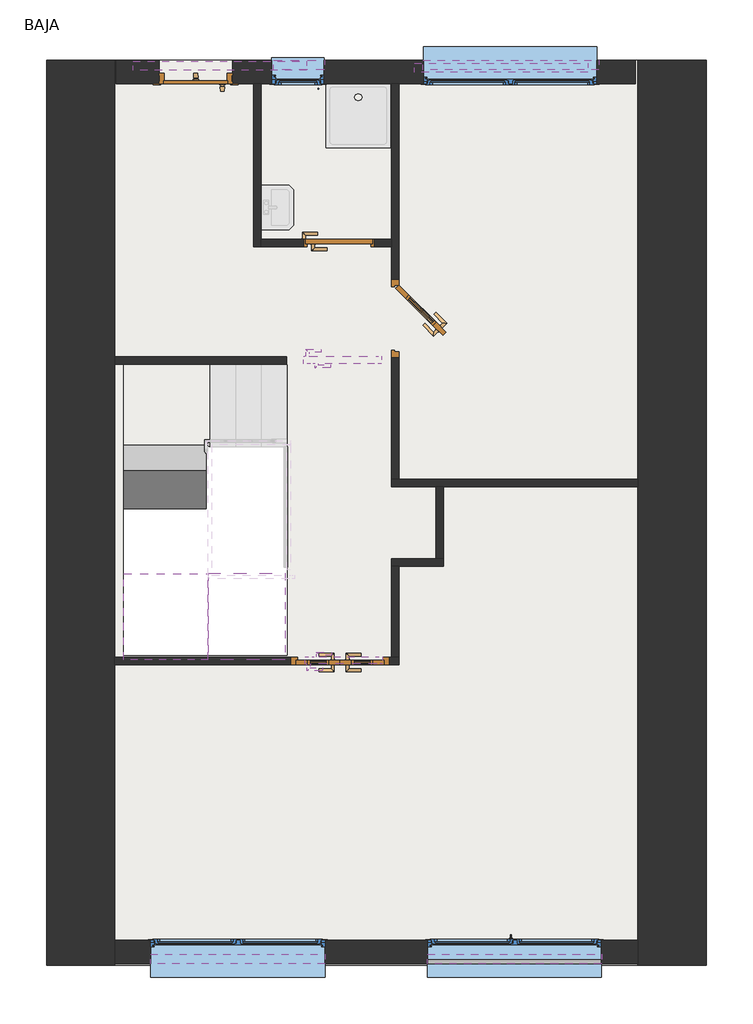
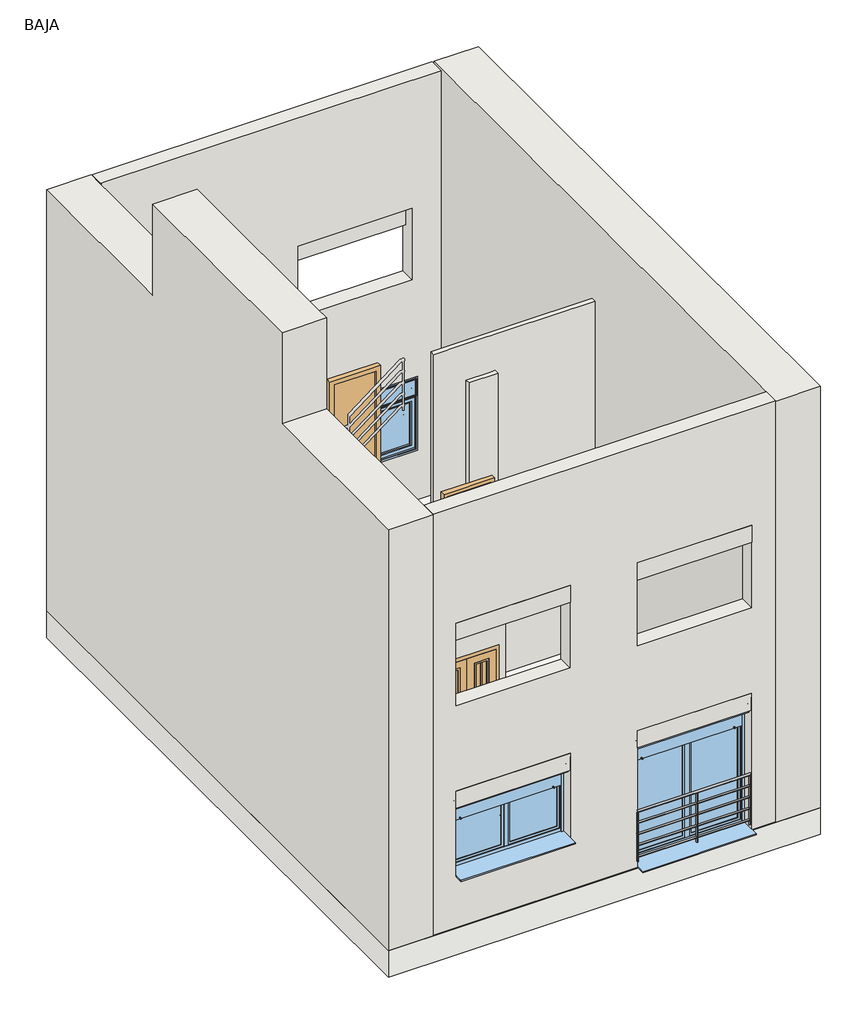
# One storey, part 1 of 3: 21 walls, 6 doors, 4 windows, 3 slabs, 2 stair flights, 1 railing.
"""IFC4 building model written with IfcOpenShell, lengths in millimetres."""

from ifc_helpers import new_model, si_unit, point, frame, frame_2d, origin, place, context, project, spatial, polyline, circle_curve, trimmed, segment, composite_curve, outline, extrude, faceted_brep, transform, mapped, element, save
from components import door_125_x_203_cm_500769dd, door_72_5_x_203_cm_2e9c9844, door_72_5_x_203_cm_b813763c, door_72_5_x_203_cm_f417b031, door_800_x_2100mm_72a88144, window_7e7f52a2, window_ec7ea8cb, window_ea0ccc3b, window_bd042ff0

model = new_model("IFC4")

# Units and contexts
model_context = context("Model", 3, world=origin())
ifc_project = project(units=[si_unit("LENGTHUNIT", "METRE", prefix="MILLI")], contexts=[model_context])

# Site, building, storey
site = spatial("IfcSite", under=ifc_project)
building = spatial("IfcBuilding", under=site)
storey = spatial("IfcBuildingStorey", under=building, Name="BAJA", Elevation=4000.0)

# Doors
placement = place(None, origin())
door_125_x_203_cm_shape = door_125_x_203_cm_500769dd(model_context)
element("IfcDoor", 1, ObjectType="Puerta abatible de 2 hojas con ventana con ventilacion : 125 x 203 cm", at=placement, inside=storey, context=model_context, shape_type="MappedRepresentation", body=[
    mapped(door_125_x_203_cm_shape, transform((-4503.6810782, -12799.9701634, 4000.0), x_axis=(1.0, 0.0, 0.0), y_axis=(0.0, 1.0, 0.0), z_axis=(0.0, 0.0, 1.0))),
])
door_72_5_x_203_cm_shape = door_72_5_x_203_cm_2e9c9844(model_context)
element("IfcDoor", 2, ObjectType="Puerta abatible ciega con ventilación : 72.5 x 203 cm", at=placement, inside=storey, context=model_context, shape_type="MappedRepresentation", body=[
    mapped(door_72_5_x_203_cm_shape, transform((-4464.4530766, -12790.9701634, 6950.0), x_axis=(-1.0, 0.0, 0.0), y_axis=(0.0, -1.0, 0.0), z_axis=(0.0, 0.0, 1.0))),
])
door_72_5_x_203_cm_2_shape = door_72_5_x_203_cm_b813763c(model_context)
element("IfcDoor", 3, ObjectType="Puerta abatible ciega con ventilación : 72.5 x 203 cm", at=placement, inside=storey, context=model_context, shape_type="MappedRepresentation", body=[
    mapped(door_72_5_x_203_cm_2_shape, transform((-4476.9530766, -9522.9701634, 6950.0), x_axis=(-1.0, 0.0, 0.0), y_axis=(0.0, -1.0, 0.0), z_axis=(0.0, 0.0, 1.0))),
])
element("IfcDoor", 4, ObjectType="Puerta abatible ciega con ventilación : 72.5 x 203 cm", at=placement, inside=storey, context=model_context, shape_type="MappedRepresentation", body=[
    mapped(door_72_5_x_203_cm_2_shape, transform((-4515.6811043, -8248.8535846, 4000.0), x_axis=(-1.0, 0.0, 0.0), y_axis=(0.0, -1.0, 0.0), z_axis=(0.0, 0.0, 1.0))),
])
door_72_5_x_203_cm_3_shape = door_72_5_x_203_cm_f417b031(model_context)
element("IfcDoor", 5, ObjectType="Puerta abatible con ventana y ventilación  : 72.5 x 203 cm", at=placement, inside=storey, context=model_context, shape_type="MappedRepresentation", body=[
    mapped(door_72_5_x_203_cm_3_shape, transform((-3903.6811043, -9070.8535846, 4000.0), x_axis=(0.0, -1.0, 0.0), y_axis=(1.0, 0.0, 0.0), z_axis=(0.0, 0.0, 1.0))),
])
door_800_x_2100mm_shape = door_800_x_2100mm_72a88144(model_context)
element("IfcDoor", 6, ObjectType="Puerta de entrada a la vivienda : 800 x 2100mm", at=placement, inside=storey, context=model_context, shape_type="MappedRepresentation", body=[
    mapped(door_800_x_2100mm_shape, transform((-6076.4955425, -6389.2945269, 4000.0), x_axis=(-1.0, 0.0, 0.0), y_axis=(0.0, -1.0, 0.0), z_axis=(0.0, 0.0, 1.0))),
])

# Railing
element("IfcRailing", 7, ObjectType="Tubería 900 mm", at=placement, inside=storey, context=model_context, shape_type="SweptSolid", body=[
    extrude(outline(composite_curve([segment(trimmed(circle_curve(frame_2d((-16073.1457931, 4970.0)), 20.0), [point((-16093.1457931, 4970.0))], [point((-16053.1457931, 4970.0))], False, "CARTESIAN"), True, "CONTINUOUS"), segment(trimmed(circle_curve(frame_2d((-16073.1457931, 4970.0)), 20.0), [point((-16053.1457931, 4970.0))], [point((-16093.1457931, 4970.0))], False, "CARTESIAN"), True, "CONTINUOUS")], self_intersect=False)), frame((-3550.9530766, 0.0, 0.0), z_axis=(1.0, 0.0, 0.0), x_axis=(0.0, 1.0, 0.0)), (0.0, 0.0, 1.0), 1890.0),
    extrude(outline(composite_curve([segment(trimmed(circle_curve(frame_2d((-16073.1457931, 4775.0)), 15.0), [point((-16058.1457931, 4775.0))], [point((-16088.1457931, 4775.0))], False, "CARTESIAN"), True, "CONTINUOUS"), segment(trimmed(circle_curve(frame_2d((-16073.1457931, 4775.0)), 15.0), [point((-16088.1457931, 4775.0))], [point((-16058.1457931, 4775.0))], False, "CARTESIAN"), True, "CONTINUOUS")], self_intersect=False)), frame((-3550.9530766, 0.0, 0.0), z_axis=(1.0, 0.0, 0.0), x_axis=(0.0, 1.0, 0.0)), (0.0, 0.0, 1.0), 1890.0),
    extrude(outline(composite_curve([segment(trimmed(circle_curve(frame_2d((-16073.1457931, 4575.0)), 15.0), [point((-16058.1457931, 4575.0))], [point((-16088.1457931, 4575.0))], False, "CARTESIAN"), True, "CONTINUOUS"), segment(trimmed(circle_curve(frame_2d((-16073.1457931, 4575.0)), 15.0), [point((-16088.1457931, 4575.0))], [point((-16058.1457931, 4575.0))], False, "CARTESIAN"), True, "CONTINUOUS")], self_intersect=False)), frame((-3550.9530766, 0.0, 0.0), z_axis=(1.0, 0.0, 0.0), x_axis=(0.0, 1.0, 0.0)), (0.0, 0.0, 1.0), 1890.0),
    extrude(outline(composite_curve([segment(trimmed(circle_curve(frame_2d((-16073.1457931, 4375.0)), 15.0), [point((-16058.1457931, 4375.0))], [point((-16088.1457931, 4375.0))], False, "CARTESIAN"), True, "CONTINUOUS"), segment(trimmed(circle_curve(frame_2d((-16073.1457931, 4375.0)), 15.0), [point((-16088.1457931, 4375.0))], [point((-16058.1457931, 4375.0))], False, "CARTESIAN"), True, "CONTINUOUS")], self_intersect=False)), frame((-3550.9530766, 0.0, 0.0), z_axis=(1.0, 0.0, 0.0), x_axis=(0.0, 1.0, 0.0)), (0.0, 0.0, 1.0), 1890.0),
    extrude(outline(composite_curve([segment(trimmed(circle_curve(frame_2d((-16073.1457931, 4175.0)), 15.0), [point((-16058.1457931, 4175.0))], [point((-16088.1457931, 4175.0))], False, "CARTESIAN"), True, "CONTINUOUS"), segment(trimmed(circle_curve(frame_2d((-16073.1457931, 4175.0)), 15.0), [point((-16088.1457931, 4175.0))], [point((-16058.1457931, 4175.0))], False, "CARTESIAN"), True, "CONTINUOUS")], self_intersect=False)), frame((-3550.9530766, 0.0, 0.0), z_axis=(1.0, 0.0, 0.0), x_axis=(0.0, 1.0, 0.0)), (0.0, 0.0, 1.0), 1890.0),
    extrude(outline(composite_curve([segment(trimmed(circle_curve(frame_2d((-2550.9530766, -16073.1457931)), 12.5), [point((-2550.9530766, -16060.6457931))], [point((-2550.9530766, -16085.6457931))], False, "CARTESIAN"), True, "CONTINUOUS"), segment(trimmed(circle_curve(frame_2d((-2550.9530766, -16073.1457931)), 12.5), [point((-2550.9530766, -16085.6457931))], [point((-2550.9530766, -16060.6457931))], False, "CARTESIAN"), True, "CONTINUOUS")], self_intersect=False)), frame((0.0, 0.0, 4090.0), z_axis=(0.0, 0.0, 1.0), x_axis=(1.0, 0.0, 0.0)), (0.0, 0.0, 1.0), 860.0),
    extrude(outline(composite_curve([segment(trimmed(circle_curve(frame_2d((-1673.4530766, -16073.1457931)), 12.5), [point((-1673.4530766, -16060.6457931))], [point((-1673.4530766, -16085.6457931))], False, "CARTESIAN"), True, "CONTINUOUS"), segment(trimmed(circle_curve(frame_2d((-1673.4530766, -16073.1457931)), 12.5), [point((-1673.4530766, -16085.6457931))], [point((-1673.4530766, -16060.6457931))], False, "CARTESIAN"), True, "CONTINUOUS")], self_intersect=False)), frame((0.0, 0.0, 4090.0), z_axis=(0.0, 0.0, 1.0), x_axis=(1.0, 0.0, 0.0)), (0.0, 0.0, 1.0), 860.0),
    extrude(outline(composite_curve([segment(trimmed(circle_curve(frame_2d((-3538.4530766, -16073.1457931)), 12.5), [point((-3538.4530766, -16060.6457931))], [point((-3538.4530766, -16085.6457931))], False, "CARTESIAN"), True, "CONTINUOUS"), segment(trimmed(circle_curve(frame_2d((-3538.4530766, -16073.1457931)), 12.5), [point((-3538.4530766, -16085.6457931))], [point((-3538.4530766, -16060.6457931))], False, "CARTESIAN"), True, "CONTINUOUS")], self_intersect=False)), frame((0.0, 0.0, 4090.0), z_axis=(0.0, 0.0, 1.0), x_axis=(1.0, 0.0, 0.0)), (0.0, 0.0, 1.0), 860.0),
])

# Slabs
element("IfcSlab", 8, ObjectType="Grosor 300 mm", at=placement, inside=storey, context=model_context, shape_type="Brep", body=[
    faceted_brep([(-5962.9130424, -11849.9758253, 6142.8571429), (-6862.9130424, -11849.9758253, 6142.8571429), (-6862.9130424, -11984.7874944, 6142.8571429), (-6862.9130424, -12783.734164, 6142.8571429), (-6088.1013733, -12783.734164, 6142.8571429), (-5942.9130424, -12783.734164, 6142.8571429), (-5942.9130424, -11844.9758253, 6142.8571429), (-5962.9130424, -11849.9758253, 5938.664539), (-5962.9130424, -11849.9758253, 5928.5714286), (-5962.9130424, -11849.9758253, 5739.6849471), (-6862.9130424, -11849.9758253, 5739.6849471), (-6862.9130424, -11849.9758253, 5928.5714286), (-6862.9130424, -11984.7874944, 5842.8571429), (-6862.9130424, -12783.734164, 5842.8571429), (-6088.1013733, -12783.734164, 5842.8571429), (-5942.9130424, -12783.734164, 5953.9706614), (-5942.9130424, -11844.9758253, 5953.9706614), (-6502.1597187, -11984.7874944, 5842.8571429), (-6088.1013733, -11984.7874944, 5842.8571429), (-5962.9130424, -11984.7874944, 5842.8571429), (-5962.9130424, -11984.7874944, 5938.664539)], [[[0, 1, 2, 3, 4, 5, 6]], [[1, 0, 7, 8, 9, 10, 11]], [[1, 11, 10, 12, 13, 3, 2]], [[3, 13, 14, 15, 5, 4]], [[6, 5, 15, 16]], [[0, 6, 16, 7]], [[12, 17, 18, 14, 13]], [[19, 18, 17, 12, 10, 9]], [[18, 19, 20]], [[20, 19, 9, 8, 7]], [[14, 18, 20, 7, 16, 15]]]),
])
element("IfcSlab", 9, ObjectType="Grosor 300 mm", at=placement, inside=storey, context=model_context, shape_type="Brep", body=[
    faceted_brep([(-5924.4147176, -10465.7372309, 4857.1428571), (-5924.4147176, -9554.9701632, 4857.1428571), (-6059.2263867, -9554.9701632, 4857.1428571), (-6862.9130424, -9554.9701632, 4857.1428571), (-6862.9130424, -10304.7874944, 4857.1428571), (-6862.9130424, -10449.9758253, 4857.1428571), (-5962.9130424, -10449.9758253, 4857.1428571), (-6862.9130424, -9554.9701632, 4557.1428571), (-6862.9130424, -10304.7874944, 4557.1428571), (-6862.9130424, -10449.9758253, 4668.2563757), (-5962.9130424, -10449.9758253, 4483.4336651), (-5924.4147176, -10465.7372309, 4453.9706614), (-5924.4147176, -9554.9701632, 4453.9706614), (-5924.4147176, -9554.9701632, 4642.8571429), (-6059.2263867, -9554.9701632, 4557.1428571), (-6059.2263867, -10449.9758253, 4668.2563757), (-6059.2263867, -10449.9758253, 4557.1428571), (-6059.2263867, -10410.5446634, 4557.1428571), (-6317.5455974, -10304.7874944, 4557.1428571), (-6059.2263867, -10304.7874944, 4557.1428571), (-6059.2263867, -10410.5446634, 4638.0794661)], [[[0, 1, 2, 3, 4, 5, 6]], [[3, 7, 8, 9, 5, 4]], [[0, 6, 10, 11]], [[1, 0, 11, 12, 13]], [[1, 13, 12, 14, 7, 3, 2]], [[6, 5, 9, 15, 16, 10]], [[17, 18, 8, 7, 14, 19]], [[18, 17, 20]], [[19, 14, 12, 11, 10, 16, 17]], [[20, 17, 16, 15]], [[8, 18, 20, 15, 9]]]),
])
element("IfcSlab", 10, ObjectType="Forjado", at=placement, inside=storey, context=model_context, shape_type="SweptSolid", body=[
    extrude(outline(polyline([(-7701.2380085, -16108.1457931), (-7701.2380085, -6261.7945269), (-518.1530766, -6261.7945269), (-518.1530766, -16108.1457931), (-7701.2380085, -16108.1457931)]), holes=[polyline([(-5083.6810782, -9575.2061626), (-6863.6810782, -9575.2061626), (-6863.6810782, -12736.234164), (-5083.6810782, -12736.234164), (-5083.6810782, -11778.334164), (-5083.6810782, -9575.2061626)])]), frame((0.0, 0.0, 3530.0), z_axis=(0.0, 0.0, 1.0), x_axis=(1.0, 0.0, 0.0)), (0.0, 0.0, 1.0), 470.0),
])

# Stair flights
element("IfcStairFlight", 11, ObjectType="Profundidad estructural 150 mm", at=placement, inside=storey, context=model_context, shape_type="Brep", body=[
    faceted_brep([(-5962.9130424, -10729.9758253, 5071.4285714), (-5962.9130424, -10449.9758253, 5071.4285714), (-6862.9130424, -10449.9758253, 5071.4285714), (-6862.9130424, -10729.9758253, 5071.4285714), (-5962.9130424, -10729.9758253, 4882.54209), (-5962.9130424, -10449.9758253, 4668.2563757), (-6059.2263867, -10449.9758253, 4668.2563757), (-6862.9130424, -10449.9758253, 4668.2563757), (-6862.9130424, -10449.9758253, 4857.1428571), (-6862.9130424, -10729.9758253, 4882.54209), (-5962.9130424, -11009.9758253, 5285.7142857), (-5962.9130424, -10729.9758253, 5285.7142857), (-6862.9130424, -10729.9758253, 5285.7142857), (-6862.9130424, -11009.9758253, 5285.7142857), (-5962.9130424, -11009.9758253, 5096.8278043), (-6862.9130424, -11009.9758253, 5096.8278043), (-5962.9130424, -11289.9758253, 5500.0), (-5962.9130424, -11009.9758253, 5500.0), (-6862.9130424, -11009.9758253, 5500.0), (-6862.9130424, -11289.9758253, 5500.0), (-5962.9130424, -11289.9758253, 5311.1135186), (-6862.9130424, -11289.9758253, 5311.1135186), (-5962.9130424, -11569.9758253, 5714.2857143), (-5962.9130424, -11289.9758253, 5714.2857143), (-6862.9130424, -11289.9758253, 5714.2857143), (-6862.9130424, -11569.9758253, 5714.2857143), (-5962.9130424, -11569.9758253, 5525.3992328), (-6862.9130424, -11569.9758253, 5525.3992328), (-5962.9130424, -11849.9758253, 5928.5714286), (-5962.9130424, -11569.9758253, 5928.5714286), (-6862.9130424, -11569.9758253, 5928.5714286), (-6862.9130424, -11849.9758253, 5928.5714286), (-5962.9130424, -11849.9758253, 5739.6849471), (-6862.9130424, -11849.9758253, 5739.6849471)], [[[0, 1, 2, 3]], [[1, 0, 4, 5]], [[2, 1, 5, 6, 7, 8]], [[3, 2, 8, 7, 9]], [[10, 11, 12, 13]], [[11, 10, 14, 4, 0]], [[0, 3, 12, 11]], [[13, 12, 3, 9, 15]], [[16, 17, 18, 19]], [[17, 16, 20, 14, 10]], [[10, 13, 18, 17]], [[19, 18, 13, 15, 21]], [[22, 23, 24, 25]], [[23, 22, 26, 20, 16]], [[16, 19, 24, 23]], [[25, 24, 19, 21, 27]], [[28, 29, 30, 31]], [[29, 28, 32, 26, 22]], [[22, 25, 30, 29]], [[31, 30, 25, 27, 33]], [[28, 31, 33, 32]], [[5, 4, 14, 20, 26, 32, 33, 27, 21, 15, 9, 7, 6]]]),
])
element("IfcStairFlight", 12, ObjectType="Profundidad estructural 150 mm", at=placement, inside=storey, context=model_context, shape_type="Brep", body=[
    faceted_brep([(-5662.9130424, -11844.9758253, 6357.1428571), (-5942.9130424, -11844.9758253, 6357.1428571), (-5942.9130424, -12783.734164, 6357.1428571), (-5662.9130424, -12783.734164, 6357.1428571), (-5662.9130424, -11844.9758253, 6168.2563757), (-5942.9130424, -11844.9758253, 5953.9706614), (-5942.9130424, -12783.734164, 5953.9706614), (-5942.9130424, -12783.734164, 6142.8571429), (-5662.9130424, -12783.734164, 6168.2563757), (-5382.9130424, -11844.9758253, 6571.4285714), (-5662.9130424, -11844.9758253, 6571.4285714), (-5662.9130424, -12783.734164, 6571.4285714), (-5382.9130424, -12783.734164, 6571.4285714), (-5382.9130424, -11844.9758253, 6382.54209), (-5382.9130424, -12783.734164, 6382.54209), (-5102.9130424, -11844.9758253, 6785.7142857), (-5382.9130424, -11844.9758253, 6785.7142857), (-5382.9130424, -12783.734164, 6785.7142857), (-5102.9130424, -12783.734164, 6785.7142857), (-5102.9130424, -11844.9758253, 6596.8278043), (-5102.9130424, -12783.734164, 6596.8278043)], [[[0, 1, 2, 3]], [[1, 0, 4, 5]], [[2, 1, 5, 6, 7]], [[3, 2, 7, 6, 8]], [[9, 10, 11, 12]], [[10, 9, 13, 4, 0]], [[11, 10, 0, 3]], [[12, 11, 3, 8, 14]], [[15, 16, 17, 18]], [[16, 15, 19, 13, 9]], [[17, 16, 9, 12]], [[18, 17, 12, 14, 20]], [[15, 18, 20, 19]], [[5, 4, 13, 19, 20, 14, 8, 6]]]),
])

# Walls
element("IfcWall", 13, ObjectType="Medianera adiabática", at=placement, inside=storey, context=model_context, shape_type="Brep", body=[
    faceted_brep([(-6960.2380085, -16108.1457931, 4000.0), (-6960.2380085, -15973.3817995, 4000.0), (-6960.2380085, -15673.3817995, 4000.0), (-6960.2380085, -13129.734164, 4000.0), (-6960.2380085, -12839.9701634, 4000.0), (-6960.2380085, -12759.9701634, 4000.0), (-6960.2380085, -9568.9701632, 4000.0), (-6960.2380085, -9488.9701632, 4000.0), (-6960.2380085, -9220.2061626, 4000.0), (-6960.2380085, -6796.794526, 4000.0), (-6960.2380085, -6496.794526, 4000.0), (-6960.2380085, -6261.7945269, 4000.0), (-6960.2380085, -6261.7945269, 11400.0), (-6960.2380085, -6496.794526, 11400.0), (-6960.2380085, -6796.794526, 11400.0), (-6960.2380085, -9220.2061626, 11400.0), (-6960.2380085, -9317.7974399, 11400.0), (-6960.2380085, -9317.7974399, 13000.0), (-6960.2380085, -9318.4505332, 13000.0), (-6960.2380085, -9573.4505332, 13000.0), (-6960.2380085, -12785.2974399, 13000.0), (-6960.2380085, -13040.2974399, 13000.0), (-6960.2380085, -13040.2974399, 11400.0), (-6960.2380085, -13129.734164, 11400.0), (-6960.2380085, -15673.3817995, 11400.0), (-6960.2380085, -15973.3817995, 11400.0), (-6960.2380085, -16108.1457931, 11400.0), (-7701.2380085, -16108.1457931, 4000.0), (-7701.2380085, -16108.1457931, 11400.0), (-7701.2380085, -13040.2974399, 11400.0), (-7701.2380085, -13040.2974399, 13000.0), (-7701.2380085, -9317.7974399, 13000.0), (-7701.2380085, -9317.7974399, 11400.0), (-7701.2380085, -6261.7945269, 11400.0), (-7701.2380085, -6261.7945269, 4000.0)], [[[0, 1, 2, 3, 4, 5, 6, 7, 8, 9, 10, 11, 12, 13, 14, 15, 16, 17, 18, 19, 20, 21, 22, 23, 24, 25, 26]], [[27, 28, 29, 30, 31, 32, 33, 34]], [[11, 10, 9, 8, 7, 6, 5, 4, 3, 2, 1, 0, 27, 34]], [[12, 11, 34, 33]], [[0, 26, 28, 27]], [[16, 15, 14, 13, 12, 33, 32]], [[16, 32, 31, 17]], [[26, 25, 24, 23, 22, 29, 28]], [[29, 22, 21, 30]], [[21, 20, 19, 18, 17, 31, 30]]]),
])
element("IfcWall", 14, ObjectType="Medianera adiabática", at=placement, inside=storey, context=model_context, shape_type="Brep", body=[
    faceted_brep([(-518.1530766, -16108.1457931, 4000.0), (-518.1530766, -6261.7945269, 4000.0), (-518.1530766, -6261.7945269, 11400.0), (-518.1530766, -16108.1457931, 11400.0), (-1259.1530766, -16108.1457931, 4000.0), (-1259.1530766, -16108.1457931, 11400.0), (-1259.1530766, -16093.1457931, 11400.0), (-1259.1530766, -15838.1457931, 11400.0), (-1259.1530766, -6261.7945269, 11400.0), (-1259.1530766, -6261.7945269, 4000.0), (-1259.1530766, -6376.794526, 4000.0), (-1259.1530766, -6676.794526, 4000.0), (-1259.1530766, -9220.2061626, 4000.0), (-1259.1530766, -9520.2061626, 4000.0), (-1259.1530766, -10820.4118523, 4000.0), (-1259.1530766, -10900.4118523, 4000.0), (-1259.1530766, -12829.734164, 4000.0), (-1259.1530766, -13129.734164, 4000.0), (-1259.1530766, -15673.3817995, 4000.0), (-1259.1530766, -15838.1457931, 4000.0), (-1259.1530766, -16093.1457931, 4000.0)], [[[0, 1, 2, 3]], [[4, 5, 6, 7, 8, 9, 10, 11, 12, 13, 14, 15, 16, 17, 18, 19, 20]], [[1, 0, 4, 20, 19, 18, 17, 16, 15, 14, 13, 12, 11, 10, 9]], [[2, 1, 9, 8]], [[3, 2, 8, 7, 6, 5]], [[0, 3, 5, 4]]]),
])
element("IfcWall", 15, ObjectType="Tabique cartón-yeso", at=placement, inside=storey, context=model_context, shape_type="Brep", body=[
    faceted_brep([(-5443.6810782, -6516.7945269, 4000.0), (-5443.6810782, -8288.8535846, 4000.0), (-5443.6810782, -8288.8535846, 6530.0), (-5443.6810782, -6516.7945269, 6530.0), (-5363.6810782, -6516.7945269, 4000.0), (-5363.6810782, -6516.7945269, 6530.0), (-5363.6810782, -8208.8535846, 6530.0), (-5363.6810782, -8288.8535846, 6530.0), (-5363.6810782, -8288.8535846, 4000.0), (-5363.6810782, -8208.8535846, 4000.0)], [[[0, 1, 2, 3]], [[4, 5, 6, 7, 8, 9]], [[1, 0, 4, 9, 8]], [[2, 1, 8, 7]], [[3, 2, 7, 6, 5]], [[0, 3, 5, 4]]]),
])
element("IfcWall", 16, ObjectType="Tabique cartón-yeso", at=placement, inside=storey, context=model_context, shape_type="SweptSolid", body=[
    extrude(outline(polyline([(6530.0, -5363.6810782), (4000.0, -5363.6810782), (4000.0, -4901.598203), (6090.0, -4901.598203), (6090.0, -4128.1811043), (4000.0, -4128.1811043), (4000.0, -3943.6811043), (6530.0, -3943.6811043), (6530.0, -5363.6810782)])), frame((0.0, -8288.8535846, 0.0), z_axis=(0.0, 1.0, 0.0), x_axis=(0.0, 0.0, 1.0)), (0.0, 0.0, 1.0), 80.0),
])
element("IfcWall", 17, ObjectType="Tabique cartón-yeso", at=placement, inside=storey, context=model_context, shape_type="Brep", body=[
    faceted_brep([(-3943.6811043, -10900.4118523, 10000.0), (-3943.6811043, -10900.4118523, 4000.0), (-3457.5472459, -10900.4118523, 4000.0), (-3377.5472459, -10900.4118523, 4000.0), (-1259.1530766, -10900.4118523, 4000.0), (-1259.1530766, -10900.4118523, 10000.0), (-3376.0472459, -10900.4118523, 10000.0), (-3456.0472459, -10900.4118523, 10000.0), (-3943.6811043, -10820.4118523, 4000.0), (-3943.6811043, -10820.4118523, 6530.0), (-3943.6811043, -10820.4118523, 7000.0), (-3943.6811043, -10820.4118523, 10000.0), (-3863.6811043, -10820.4118523, 10000.0), (-1259.1530766, -10820.4118523, 10000.0), (-1259.1530766, -10820.4118523, 4000.0), (-3863.6811043, -10820.4118523, 4000.0)], [[[0, 1, 2, 3, 4, 5, 6, 7]], [[8, 9, 10, 11, 12, 13, 14, 15]], [[4, 3, 2, 1, 8, 15, 14]], [[0, 7, 6, 5, 13, 12, 11]], [[5, 4, 14, 13]], [[0, 11, 10, 9, 8, 1]]]),
])
element("IfcWall", 18, ObjectType="Tabique cartón-yeso", at=placement, inside=storey, context=model_context, shape_type="Brep", body=[
    faceted_brep([(-3943.6811043, -6516.7945269, 6530.0), (-3943.6811043, -6516.7945269, 4000.0), (-3943.6811043, -8208.8535846, 4000.0), (-3943.6811043, -8288.8535846, 4000.0), (-3943.6811043, -8648.3535846, 4000.0), (-3943.6811043, -8648.3535846, 6090.0), (-3943.6811043, -9493.3535846, 6090.0), (-3943.6811043, -9493.3535846, 4000.0), (-3943.6811043, -10820.4118523, 4000.0), (-3943.6811043, -10820.4118523, 6530.0), (-3943.6811043, -8288.8535846, 6530.0), (-3943.6811043, -8208.8535846, 6530.0), (-3863.6811043, -6516.7945269, 4000.0), (-3863.6811043, -6516.7945269, 6530.0), (-3863.6811043, -10820.4118523, 6530.0), (-3863.6811043, -10820.4118523, 4000.0), (-3863.6811043, -9493.3535846, 4000.0), (-3863.6811043, -9493.3535846, 6090.0), (-3863.6811043, -8648.3535846, 6090.0), (-3863.6811043, -8648.3535846, 4000.0)], [[[0, 1, 2, 3, 4, 5, 6, 7, 8, 9, 10, 11]], [[12, 13, 14, 15, 16, 17, 18, 19]], [[1, 12, 19, 4, 3, 2]], [[15, 8, 7, 16]], [[1, 0, 13, 12]], [[18, 5, 4, 19]], [[6, 17, 16, 7]], [[5, 18, 17, 6]], [[0, 11, 10, 9, 14, 13]], [[9, 8, 15, 14]]]),
])
element("IfcWall", 19, ObjectType="Tabique cartón-yeso", at=placement, inside=storey, context=model_context, shape_type="Brep", body=[
    faceted_brep([(-3863.6810782, -12839.9701634, 4000.0), (-3863.6810782, -12839.9701634, 6530.0), (-6909.4740076, -12839.9701634, 6530.0), (-6960.2380085, -12839.9701634, 6530.0), (-6960.2380085, -12839.9701634, 4000.0), (-6909.4740076, -12839.9701634, 4000.0), (-5043.6810782, -12839.9701634, 4000.0), (-5043.6810782, -12839.9701634, 6090.0), (-3963.6810782, -12839.9701634, 6090.0), (-3963.6810782, -12839.9701634, 4000.0), (-3863.6810782, -12759.9701634, 6530.0), (-3863.6810782, -12759.9701634, 4000.0), (-3943.6810782, -12759.9701634, 4000.0), (-3963.6810782, -12759.9701634, 4000.0), (-3963.6810782, -12759.9701634, 6090.0), (-5043.6810782, -12759.9701634, 6090.0), (-5043.6810782, -12759.9701634, 4000.0), (-6960.2380085, -12759.9701634, 4000.0), (-6960.2380085, -12759.9701634, 6530.0), (-3943.6810782, -12759.9701634, 6530.0), (-6960.2380085, -12829.734164, 6530.0)], [[[0, 1, 2, 3, 4, 5, 6, 7, 8, 9]], [[10, 11, 12, 13, 14, 15, 16, 17, 18, 19]], [[11, 0, 9, 13, 12]], [[4, 17, 16, 6, 5]], [[15, 7, 6, 16]], [[8, 14, 13, 9]], [[7, 15, 14, 8]], [[0, 11, 10, 1]], [[4, 3, 20, 18, 17]], [[3, 2, 1, 10, 19, 18, 20]]]),
])
element("IfcWall", 20, ObjectType="Tabique cartón-yeso", at=placement, inside=storey, context=model_context, shape_type="SweptSolid", body=[
    extrude(outline(polyline([(-3863.6810782, -11767.9332832), (-3863.6810782, -12759.9701634), (-3943.6810782, -12759.9701634), (-3943.6810782, -11767.9332832), (-3863.6810782, -11767.9332832)])), frame((0.0, 0.0, 4000.0), z_axis=(0.0, 0.0, 1.0), x_axis=(1.0, 0.0, 0.0)), (0.0, 0.0, 1.0), 2530.0),
])
element("IfcWall", 21, ObjectType="Tabique cartón-yeso", at=placement, inside=storey, context=model_context, shape_type="Brep", body=[
    faceted_brep([(-6960.2380085, -9568.9701632, 4000.0), (-5087.3904743, -9568.9701632, 4000.0), (-5087.3904743, -9568.9701632, 6530.0), (-6960.2380085, -9568.9701632, 6530.0), (-6960.2380085, -9488.9701632, 4000.0), (-6960.2380085, -9488.9701632, 6530.0), (-6909.4740076, -9488.9701632, 6530.0), (-5087.3904743, -9488.9701632, 6530.0), (-5087.3904743, -9488.9701632, 4000.0), (-6909.4740076, -9488.9701632, 4000.0), (-6960.2380085, -9520.2061626, 6530.0)], [[[0, 1, 2, 3]], [[4, 5, 6, 7, 8, 9]], [[1, 0, 4, 9, 8]], [[2, 1, 8, 7]], [[3, 2, 7, 6, 5, 10]], [[0, 3, 10, 5, 4]]]),
])
element("IfcWall", 22, ObjectType="Emparchado", at=placement, inside=storey, context=model_context, shape_type="SweptSolid", body=[
    extrude(outline(polyline([(-1650.9530766, -16093.3407462), (-3550.9530766, -16093.3407462), (-3550.9530766, -15993.3407462), (-1650.9530766, -15993.3407462), (-1650.9530766, -16093.3407462)])), frame((0.0, 0.0, 9050.0), z_axis=(0.0, 0.0, 1.0), x_axis=(1.0, 0.0, 0.0)), (0.0, 0.0, 1.0), 300.0),
])
element("IfcWall", 23, ObjectType="Emparchado", at=placement, inside=storey, context=model_context, shape_type="SweptSolid", body=[
    extrude(outline(polyline([(-4668.4380085, -16093.3407462), (-6568.4380085, -16093.3407462), (-6568.4380085, -15993.3407462), (-4668.4380085, -15993.3407462), (-4668.4380085, -16093.3407462)])), frame((0.0, 0.0, 9050.0), z_axis=(0.0, 0.0, 1.0), x_axis=(1.0, 0.0, 0.0)), (0.0, 0.0, 1.0), 300.0),
])
element("IfcWall", 24, ObjectType="Emparchado", at=placement, inside=storey, context=model_context, shape_type="SweptSolid", body=[
    extrude(outline(polyline([(-4668.4380085, -16093.3407462), (-6568.4380085, -16093.3407462), (-6568.4380085, -15993.3407462), (-4668.4380085, -15993.3407462), (-4668.4380085, -16093.3407462)])), frame((0.0, 0.0, 6100.0), z_axis=(0.0, 0.0, 1.0), x_axis=(1.0, 0.0, 0.0)), (0.0, 0.0, 1.0), 300.0),
])
element("IfcWall", 25, ObjectType="Emparchado", at=placement, inside=storey, context=model_context, shape_type="SweptSolid", body=[
    extrude(outline(polyline([(-1660.9530766, -16093.3407462), (-3550.9530766, -16093.3407462), (-3550.9530766, -15993.3407462), (-1660.9530766, -15993.3407462), (-1660.9530766, -16093.3407462)])), frame((0.0, 0.0, 6100.0), z_axis=(0.0, 0.0, 1.0), x_axis=(1.0, 0.0, 0.0)), (0.0, 0.0, 1.0), 300.0),
])
element("IfcWall", 26, ObjectType="Emparchado", at=placement, inside=storey, context=model_context, shape_type="SweptSolid", body=[
    extrude(outline(polyline([(-1685.9530766, -6361.7945269), (-3601.0280766, -6361.7945269), (-3601.0280766, -6261.7945269), (-1685.9530766, -6261.7945269), (-1685.9530766, -6361.7945269)])), frame((0.0, 0.0, 5850.0), z_axis=(0.0, 0.0, 1.0), x_axis=(1.0, 0.0, 0.0)), (0.0, 0.0, 1.0), 300.0),
])
element("IfcWall", 27, ObjectType="Emparchado", at=placement, inside=storey, context=model_context, shape_type="SweptSolid", body=[
    extrude(outline(polyline([(-1805.9530766, -6391.7945269), (-3695.9530766, -6391.7945269), (-3695.9530766, -6291.7945269), (-1805.9530766, -6291.7945269), (-1805.9530766, -6391.7945269)])), frame((0.0, 0.0, 8800.0), z_axis=(0.0, 0.0, 1.0), x_axis=(1.0, 0.0, 0.0)), (0.0, 0.0, 1.0), 350.0),
])
element("IfcWall", 28, ObjectType="Emparchado", at=placement, inside=storey, context=model_context, shape_type="SweptSolid", body=[
    extrude(outline(polyline([(-4868.4380085, -6371.7945269), (-6758.4380085, -6371.7945269), (-6758.4380085, -6271.7945269), (-4868.4380085, -6271.7945269), (-4868.4380085, -6371.7945269)])), frame((0.0, 0.0, 8800.0), z_axis=(0.0, 0.0, 1.0), x_axis=(1.0, 0.0, 0.0)), (0.0, 0.0, 1.0), 350.0),
])
element("IfcWall", 29, ObjectType="Emparchado", at=placement, inside=storey, context=model_context, shape_type="SweptSolid", body=[
    extrude(outline(polyline([(-4675.9530766, -6361.7945269), (-5227.8280766, -6361.7945269), (-5227.8280766, -6261.7945269), (-4675.9530766, -6261.7945269), (-4675.9530766, -6361.7945269)])), frame((0.0, 0.0, 5640.552038), z_axis=(0.0, 0.0, 1.0), x_axis=(1.0, 0.0, 0.0)), (0.0, 0.0, 1.0), 319.447962),
])
element("IfcWall", 30, ObjectType="Tabique cartón-yeso", at=placement, inside=storey, context=model_context, shape_type="Brep", body=[
    faceted_brep([(-3943.6810782, -11767.9332832, 4000.0), (-3863.6810782, -11767.9332832, 4000.0), (-3377.5472459, -11767.9332832, 4000.0), (-3377.5472459, -11767.9332832, 7000.0), (-3376.0472459, -11767.9332832, 7000.0), (-3376.0472459, -11767.9332832, 10000.0), (-3857.4530766, -11767.9332832, 10000.0), (-3857.4530766, -11767.9332832, 7000.0), (-3943.6810782, -11767.9332832, 7000.0), (-3943.6810782, -11767.9332832, 6530.0), (-3943.6810782, -11687.9332832, 4000.0), (-3943.6810782, -11687.9332832, 7000.0), (-3937.4530766, -11687.9332832, 7000.0), (-3857.4530766, -11687.9332832, 7000.0), (-3857.4530766, -11687.9332832, 10000.0), (-3456.0472459, -11687.9332832, 10000.0), (-3376.0472459, -11687.9332832, 10000.0), (-3376.0472459, -11687.9332832, 7000.0), (-3377.5472459, -11687.9332832, 7000.0), (-3377.5472459, -11687.9332832, 6530.0), (-3377.5472459, -11687.9332832, 4000.0), (-3457.5472459, -11687.9332832, 4000.0)], [[[0, 1, 2, 3, 4, 5, 6, 7, 8, 9]], [[10, 11, 12, 13, 14, 15, 16, 17, 18, 19, 20, 21]], [[2, 1, 0, 10, 21, 20]], [[17, 4, 3, 18]], [[3, 2, 20, 19, 18]], [[5, 4, 17, 16]], [[7, 13, 12, 11, 8]], [[0, 9, 8, 11, 10]], [[7, 6, 14, 13]], [[6, 5, 16, 15, 14]]]),
])
element("IfcWall", 31, ObjectType="Tabique cartón-yeso", at=placement, inside=storey, context=model_context, shape_type="SweptSolid", body=[
    extrude(outline(polyline([(-3377.5472459, -10900.4118523), (-3377.5472459, -11687.9332832), (-3457.5472459, -11687.9332832), (-3457.5472459, -10900.4118523), (-3377.5472459, -10900.4118523)])), frame((0.0, 0.0, 4000.0), z_axis=(0.0, 0.0, 1.0), x_axis=(1.0, 0.0, 0.0)), (0.0, 0.0, 1.0), 2530.0),
])
element("IfcWall", 32, ObjectType="Muro Fachada", at=placement, inside=storey, context=model_context, shape_type="Brep", body=[
    faceted_brep([(-1259.1530766, -16093.1457931, 11400.0), (-6953.6530766, -16093.1457931, 11400.0), (-6953.6530766, -16093.1457931, 4000.0), (-3550.9530766, -16093.1457931, 4000.0), (-3550.9530766, -16093.1457931, 6330.0), (-1660.9530766, -16093.1457931, 6330.0), (-1660.9530766, -16093.1457931, 4000.0), (-1259.1530766, -16093.1457931, 4000.0), (-4668.4380085, -16093.1457931, 6335.0), (-4668.4380085, -16093.1457931, 4900.0), (-6568.4380085, -16093.1457931, 4900.0), (-6568.4380085, -16093.1457931, 6335.0), (-1655.2239397, -16093.1457931, 9335.0), (-1655.2239397, -16093.1457931, 7900.0), (-3555.2239397, -16093.1457931, 7900.0), (-3555.2239397, -16093.1457931, 9335.0), (-4672.7088717, -16093.1457931, 9335.0), (-4672.7088717, -16093.1457931, 7900.0), (-6572.7088717, -16093.1457931, 7900.0), (-6572.7088717, -16093.1457931, 9335.0), (-6953.6530766, -15838.1457931, 11400.0), (-6859.1530766, -15838.1457931, 11400.0), (-1259.1530766, -15838.1457931, 11400.0), (-1259.1530766, -15838.1457931, 10000.0), (-1259.1530766, -15838.1457931, 4000.0), (-1359.1530766, -15838.1457931, 4000.0), (-1660.9530766, -15838.1457931, 4000.0), (-1660.9530766, -15838.1457931, 6330.0), (-3550.9530766, -15838.1457931, 6330.0), (-3550.9530766, -15838.1457931, 4000.0), (-6859.1530766, -15838.1457931, 4000.0), (-6953.6530766, -15838.1457931, 4000.0), (-4668.4380085, -15838.1457931, 4900.0), (-4668.4380085, -15838.1457931, 6335.0), (-6568.4380085, -15838.1457931, 6335.0), (-6568.4380085, -15838.1457931, 4900.0), (-1655.2239397, -15838.1457931, 7900.0), (-1655.2239397, -15838.1457931, 9335.0), (-3555.2239397, -15838.1457931, 9335.0), (-3555.2239397, -15838.1457931, 7900.0), (-4672.7088717, -15838.1457931, 7900.0), (-4672.7088717, -15838.1457931, 9335.0), (-6572.7088717, -15838.1457931, 9335.0), (-6572.7088717, -15838.1457931, 7900.0), (-6953.6530766, -15973.3817995, 4000.0), (-6953.6530766, -15973.3817995, 11400.0)], [[[0, 1, 2, 3, 4, 5, 6, 7], [8, 9, 10, 11], [12, 13, 14, 15], [16, 17, 18, 19]], [[20, 21, 22, 23, 24, 25, 26, 27, 28, 29, 30, 31], [32, 33, 34, 35], [36, 37, 38, 39], [40, 41, 42, 43]], [[7, 6, 26, 25, 24]], [[2, 44, 31, 30, 29, 3]], [[1, 0, 22, 21, 20, 45]], [[2, 1, 45, 20, 31, 44]], [[33, 32, 9, 8]], [[34, 33, 8, 11]], [[35, 34, 11, 10]], [[32, 35, 10, 9]], [[6, 5, 27, 26]], [[4, 3, 29, 28]], [[4, 28, 27, 5]], [[36, 13, 12, 37]], [[37, 12, 15, 38]], [[38, 15, 14, 39]], [[13, 36, 39, 14]], [[40, 17, 16, 41]], [[41, 16, 19, 42]], [[42, 19, 18, 43]], [[17, 40, 43, 18]], [[0, 7, 24, 23, 22]]]),
])
element("IfcWall", 33, ObjectType="Muro Fachada", at=placement, inside=storey, context=model_context, shape_type="Brep", body=[
    faceted_brep([(-1290.7380085, -6516.7945269, 4000.0), (-1290.7380085, -6516.7945269, 10000.0), (-1290.7380085, -6516.7945269, 11400.0), (-6869.4740076, -6516.7945269, 11400.0), (-6940.7380085, -6516.7945269, 11400.0), (-6940.7380085, -6516.7945269, 4000.0), (-6869.4740076, -6516.7945269, 4000.0), (-6476.4955425, -6516.7945269, 4000.0), (-6476.4955425, -6516.7945269, 6100.0), (-5676.4955425, -6516.7945269, 6100.0), (-5676.4955425, -6516.7945269, 4000.0), (-5443.6810782, -6516.7945269, 4000.0), (-5363.6810782, -6516.7945269, 4000.0), (-3943.6811043, -6516.7945269, 4000.0), (-3863.6811043, -6516.7945269, 4000.0), (-1414.4496163, -6516.7945269, 4000.0), (-3597.8280766, -6516.7945269, 6150.0), (-1707.8280766, -6516.7945269, 6150.0), (-1707.8280766, -6516.7945269, 4900.0), (-3597.8280766, -6516.7945269, 4900.0), (-4677.8280766, -6516.7945269, 5960.0), (-4677.8280766, -6516.7945269, 4900.0), (-5247.8280766, -6516.7945269, 4900.0), (-5247.8280766, -6516.7945269, 5960.0), (-4866.1660363, -6516.7945269, 9150.0), (-4866.1660363, -6516.7945269, 7900.0), (-6756.1660363, -6516.7945269, 7900.0), (-6756.1660363, -6516.7945269, 9150.0), (-3663.6811043, -6516.7945269, 7900.0), (-3663.6811043, -6516.7945269, 9150.0), (-1773.6811043, -6516.7945269, 9150.0), (-1773.6811043, -6516.7945269, 7900.0), (-1290.7380085, -6261.7945269, 11400.0), (-1290.7380085, -6261.7945269, 4000.0), (-5676.4955425, -6261.7945269, 4000.0), (-5676.4955425, -6261.7945269, 6100.0), (-6476.4955425, -6261.7945269, 6100.0), (-6476.4955425, -6261.7945269, 4000.0), (-6940.7380085, -6261.7945269, 4000.0), (-6940.7380085, -6261.7945269, 11400.0), (-1707.8280766, -6261.7945269, 6150.0), (-3597.8280766, -6261.7945269, 6150.0), (-3597.8280766, -6261.7945269, 4900.0), (-1707.8280766, -6261.7945269, 4900.0), (-4677.8280766, -6261.7945269, 4900.0), (-4677.8280766, -6261.7945269, 5960.0), (-5247.8280766, -6261.7945269, 5960.0), (-5247.8280766, -6261.7945269, 4900.0), (-4866.1660363, -6261.7945269, 7900.0), (-4866.1660363, -6261.7945269, 9150.0), (-6756.1660363, -6261.7945269, 9150.0), (-6756.1660363, -6261.7945269, 7900.0), (-3663.6811043, -6261.7945269, 9150.0), (-3663.6811043, -6261.7945269, 7900.0), (-1773.6811043, -6261.7945269, 7900.0), (-1773.6811043, -6261.7945269, 9150.0), (-6940.7380085, -6496.794526, 4000.0), (-1290.7380085, -6376.794526, 4000.0), (-6940.7380085, -6496.794526, 11400.0)], [[[0, 1, 2, 3, 4, 5, 6, 7, 8, 9, 10, 11, 12, 13, 14, 15], [16, 17, 18, 19], [20, 21, 22, 23], [24, 25, 26, 27], [28, 29, 30, 31]], [[32, 33, 34, 35, 36, 37, 38, 39], [40, 41, 42, 43], [44, 45, 46, 47], [48, 49, 50, 51], [52, 53, 54, 55]], [[5, 56, 38, 37, 7, 6]], [[33, 57, 0, 15, 14, 13, 12, 11, 10, 34]], [[2, 1, 0, 57, 33, 32]], [[4, 3, 2, 32, 39, 58]], [[5, 4, 58, 39, 38, 56]], [[40, 17, 16, 41]], [[41, 16, 19, 42]], [[42, 19, 18, 43]], [[17, 40, 43, 18]], [[44, 21, 20, 45]], [[45, 20, 23, 46]], [[21, 44, 47, 22]], [[22, 47, 46, 23]], [[36, 8, 7, 37]], [[8, 36, 35, 9]], [[9, 35, 34, 10]], [[49, 48, 25, 24]], [[50, 49, 24, 27]], [[51, 50, 27, 26]], [[48, 51, 26, 25]], [[29, 28, 53, 52]], [[30, 29, 52, 55]], [[31, 30, 55, 54]], [[28, 31, 54, 53]]]),
])

# Windows
window_shape = window_7e7f52a2(model_context)
element("IfcWindow", 34, ObjectType="Ventana monoblock practicable, 2 hojas sin cajon para poner emparchado : CA-05. COCINA - DORMITORIOS NORTE", at=placement, inside=storey, context=model_context, shape_type="MappedRepresentation", body=[
    mapped(window_shape, transform((-2652.8280766, -6389.2945269, 4000.0), x_axis=(-1.0, 0.0, 0.0), y_axis=(0.0, -1.0, 0.0), z_axis=(0.0, 0.0, 1.0))),
])
window_2_shape = window_ec7ea8cb(model_context)
element("IfcWindow", 35, ObjectType="Ventana monoblock practicable, 1 hoja sin cajon para poner emparchado : CA-03 BAÑO", at=placement, inside=storey, context=model_context, shape_type="MappedRepresentation", body=[
    mapped(window_2_shape, transform((-4962.8280766, -6389.2945269, 4000.0), x_axis=(-1.0, 0.0, 0.0), y_axis=(0.0, -1.0, 0.0), z_axis=(0.0, 0.0, 1.0))),
])
window_3_shape = window_ea0ccc3b(model_context)
element("IfcWindow", 36, ObjectType="Ventana monoblock practicable, 2 hojas sin cajon para poner emparchado : CA-01. SALÓN", at=placement, inside=storey, context=model_context, shape_type="MappedRepresentation", body=[
    mapped(window_3_shape, transform((-2605.9530766, -15965.6457931, 3100.0), x_axis=(-1.0, 0.0, 0.0), y_axis=(0.0, -1.0, 0.0), z_axis=(0.0, 0.0, 1.0))),
])
window_4_shape = window_bd042ff0(model_context)
element("IfcWindow", 37, ObjectType="Ventana monoblock practicable, 2 hojas sin cajon para poner emparchado : CA-02. SALÓN - DORMITORIO SUR", at=placement, inside=storey, context=model_context, shape_type="MappedRepresentation", body=[
    mapped(window_4_shape, transform((-5618.4380085, -15965.6457931, 4000.0), x_axis=(-1.0, 0.0, 0.0), y_axis=(0.0, -1.0, 0.0), z_axis=(0.0, 0.0, 1.0))),
])

save(model, "model.ifc")
